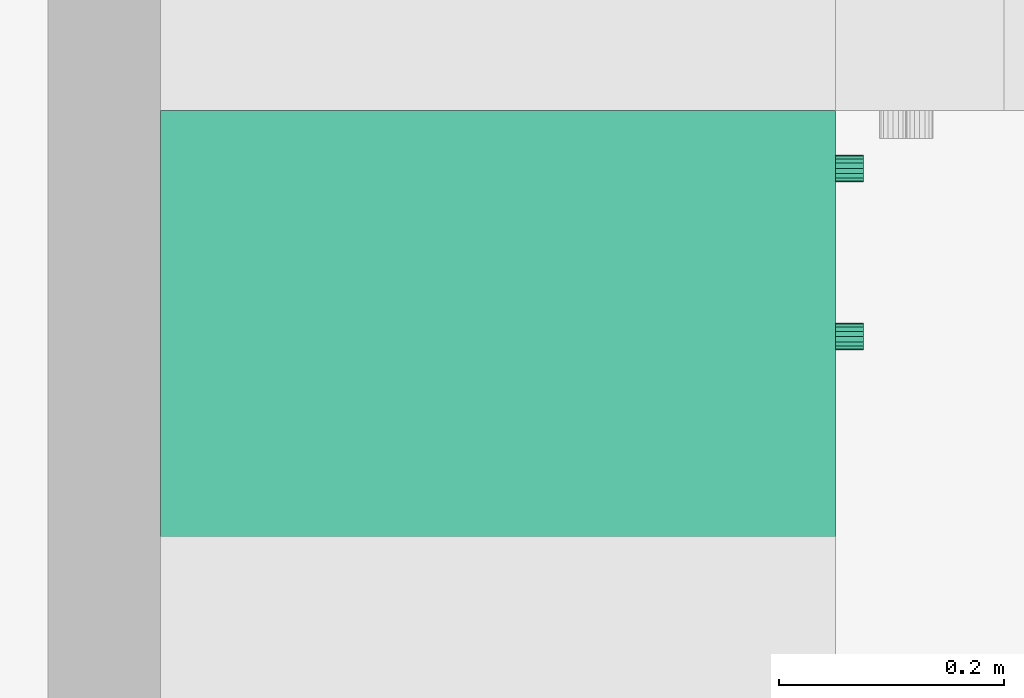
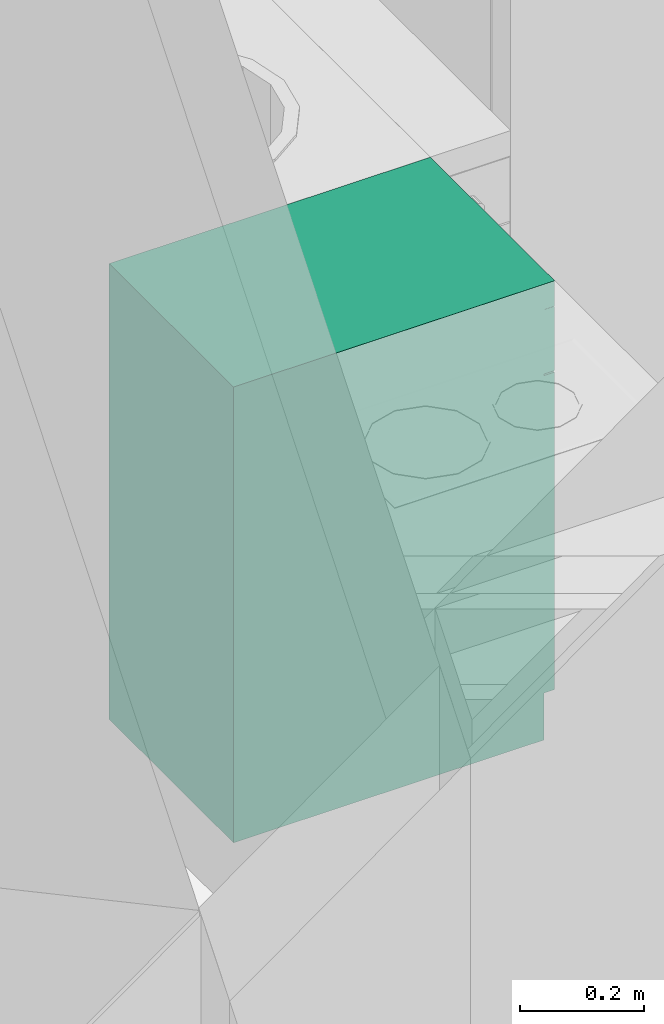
# One storey, part 68 of 172: 1 flow terminal.
"""IFC2X3 building model written with IfcOpenShell, lengths in millimetres."""

import ifcopenshell
import ifcopenshell.guid

model = None  # the IFC model being written
_history = None  # IfcOwnerHistory: only IFC2X3 demands one
_inside = {}  # id of a spatial element -> (the spatial element, [elements in it])
_under = {}  # id of a project, library or spatial element -> (it, [spatial elements below it])
_declared = {}  # id of a project -> (the project, [libraries it declares])
_typed = {}  # id of a type object -> (the type object, [elements of that type])
_made_of = {}  # id of a material, layer set ... -> (it, [elements and type objects made of it])


def new_model(schema):
    """Start an empty IFC model of exactly this schema.

    Asked for "IFC4X3", IfcOpenShell would pick the latest addendum, in which some entities
    have other attributes; the version numbers below select the first issue.
    IFC2X3 requires an IfcOwnerHistory on every rooted entity: one is made here for all.
    """
    global model, _history
    if schema == "IFC4X3":
        model = ifcopenshell.file(schema_version=(4, 3, 0, 0))
    else:
        model = ifcopenshell.file(schema=schema)
    _inside.clear()
    _under.clear()
    _declared.clear()
    _typed.clear()
    _made_of.clear()
    _history = None
    if model.schema == "IFC2X3":
        org = make("IfcOrganization", Name="unknown")
        user = make(
            "IfcPersonAndOrganization",
            ThePerson=make("IfcPerson", FamilyName="unknown"),
            TheOrganization=org,
        )
        app = make(
            "IfcApplication",
            ApplicationDeveloper=org,
            Version="unknown",
            ApplicationFullName="unknown",
            ApplicationIdentifier="unknown",
        )
        _history = make(
            "IfcOwnerHistory",
            OwningUser=user,
            OwningApplication=app,
            ChangeAction="ADDED",
            CreationDate=0,
        )
    return model


def make(cls, **values):
    """One entity of the class cls with the attributes given. An attribute that is None is left unset."""
    return model.create_entity(
        cls, **{name: value for name, value in values.items() if value is not None}
    )


def entity(cls, *values):
    """Any entity or typed value of the class cls, its attributes in the order of the schema. None: left unset."""
    e = model.create_entity(cls)
    for i, value in enumerate(values):
        if value is not None:
            e[i] = value
    return e


def rooted(cls, **values):
    """An entity with a GlobalId (a new one), such as an element, a storey or a relation."""
    return make(cls, GlobalId=ifcopenshell.guid.new(), OwnerHistory=_history, **values)


def si_unit(unit_type, name, prefix=None):
    """IfcSIUnit, for example si_unit("LENGTHUNIT", "METRE", prefix="MILLI")."""
    return make("IfcSIUnit", UnitType=unit_type, Prefix=prefix, Name=name)


def converted_unit(unit_type, name, factor, base, dimensions=None, offset=None):
    """IfcConversionBasedUnit, such as the inch: factor (a typed value) times the base unit."""
    return make(
        "IfcConversionBasedUnit"
        if offset is None
        else "IfcConversionBasedUnitWithOffset",
        ConversionOffset=offset,
        Dimensions=None
        if dimensions is None
        else entity("IfcDimensionalExponents", *dimensions),
        UnitType=unit_type,
        Name=name,
        ConversionFactor=make(
            "IfcMeasureWithUnit", ValueComponent=factor, UnitComponent=base
        ),
    )


def money_unit(currency):
    """IfcMonetaryUnit."""
    return make("IfcMonetaryUnit", Currency=currency)


def assignment(units):
    """IfcUnitAssignment: the units of a project."""
    return None if units is None else make("IfcUnitAssignment", Units=units)


def point(xyz):
    """IfcCartesianPoint."""
    return None if xyz is None else make("IfcCartesianPoint", Coordinates=xyz)


def direction(xyz):
    """IfcDirection."""
    return None if xyz is None else make("IfcDirection", DirectionRatios=xyz)


def frame(location, z_axis=None, x_axis=None):
    """IfcAxis2Placement3D, a coordinate frame: its origin and axes. An axis left out is left unset."""
    return make(
        "IfcAxis2Placement3D",
        Location=point(location),
        Axis=direction(z_axis),
        RefDirection=direction(x_axis),
    )


def origin_with_axes():
    """The frame at (0, 0, 0) with the z axis (0, 0, 1) and the x axis (1, 0, 0) written out."""
    return frame((0.0, 0.0, 0.0), z_axis=(0.0, 0.0, 1.0), x_axis=(1.0, 0.0, 0.0))


def place(relative_to, where):
    """IfcLocalPlacement: puts the frame where relative to a parent placement (None: the world)."""
    return make(
        "IfcLocalPlacement", PlacementRelTo=relative_to, RelativePlacement=where
    )


def context(
    kind, dimensions, precision=None, world=None, true_north=None, identifier=None
):
    """IfcGeometricRepresentationContext, for example the 3D "Model" context."""
    return make(
        "IfcGeometricRepresentationContext",
        ContextIdentifier=identifier,
        ContextType=kind,
        CoordinateSpaceDimension=dimensions,
        Precision=precision,
        WorldCoordinateSystem=world,
        TrueNorth=true_north,
    )


def subcontext(parent, identifier, kind, view, scale=None):
    """IfcGeometricRepresentationSubContext, for example "Body" below "Model"."""
    return make(
        "IfcGeometricRepresentationSubContext",
        ContextIdentifier=identifier,
        ContextType=kind,
        ParentContext=parent,
        TargetScale=scale,
        TargetView=view,
    )


def project(units=None, contexts=None):
    """IfcProject with its units and contexts."""
    return rooted(
        "IfcProject",
        Name="project",
        RepresentationContexts=contexts,
        UnitsInContext=assignment(units),
    )


def spatial(cls, under=None, at=None, **own):
    """A site, building, storey or space (cls), placed at a placement, below another one or the project."""
    s = rooted(cls, ObjectPlacement=at, **own)
    if under is not None:
        _under.setdefault(under.id(), (under, []))[1].append(s)
    return s


def faces_of(points, faces, orient=None, outer=None):
    """IfcFace entities. A face is a list of loops; a loop is a list of indices into points, from 0.

    orient and outer hold one flag for each loop. By default every Orientation is true, the
    first loop of a face is its IfcFaceOuterBound and the others are IfcFaceBound.
    """
    made = []
    for i, loops in enumerate(faces):
        bounds = []
        for j, loop in enumerate(loops):
            is_outer = j == 0 if outer is None else outer[i][j]
            bounds.append(
                make(
                    "IfcFaceOuterBound" if is_outer else "IfcFaceBound",
                    Bound=make("IfcPolyLoop", Polygon=[points[k] for k in loop]),
                    Orientation=True if orient is None else orient[i][j],
                )
            )
        made.append(make("IfcFace", Bounds=bounds))
    return made


def faceted_brep(points, faces, orient=None, outer=None, voids=None):
    """IfcFacetedBrep: a solid bounded by flat faces; with voids (closed shells), ...WithVoids."""
    shared = [point(p) for p in points]
    hull = make("IfcClosedShell", CfsFaces=faces_of(shared, faces, orient, outer))
    if voids is None:
        return make("IfcFacetedBrep", Outer=hull)
    return make(
        "IfcFacetedBrepWithVoids",
        Outer=hull,
        Voids=[
            make(cls, CfsFaces=faces_of(shared, fs, o, b)) for cls, fs, o, b in voids
        ],
    )


def shape(context_of_items, identifier, shape_type, items):
    """IfcShapeRepresentation: the items that make up one representation, for example the "Body"."""
    return make(
        "IfcShapeRepresentation",
        ContextOfItems=context_of_items,
        RepresentationIdentifier=identifier,
        RepresentationType=shape_type,
        Items=items,
    )


def material(Name=None, Category=None):
    """IfcMaterial."""
    return make("IfcMaterial", Name=Name, Category=Category)


def material_list(materials):
    """IfcMaterialList."""
    return make("IfcMaterialList", Materials=materials)


def made_of(thing, what):
    """Note that an element or type object is made of a material, layer set ...; save() writes the relation."""
    if what is not None:
        _made_of.setdefault(what.id(), (what, []))[1].append(thing)
    return thing


def type_object(cls, material=None, **own):
    """A type object (cls), such as IfcWallType, which elements share."""
    return made_of(rooted(cls, **own), material)


def element(
    cls,
    number,
    at=None,
    inside=None,
    cuts=None,
    type_object=None,
    material=None,
    context=None,
    identifier="Body",
    shape_type=None,
    held_by="IfcProductDefinitionShape",
    body=None,
    shapes=None,
    **own,
):
    """One element of the class cls, such as IfcWall. Its Tag is "e" and its number.

    at: its placement. inside: the storey or other place that contains it. cuts: it is an
    opening in that element (IfcRelVoidsElement). A single representation is given by context,
    identifier, shape_type and body (its items); several are given by shapes. held_by: the class
    of the entity that holds the representations. save() writes the other relations.
    """
    e = rooted(cls, Tag="e%d" % number, ObjectPlacement=at, **own)
    if body is not None:
        shapes = [shape(context, identifier, shape_type, body)]
    if shapes is not None:
        e.Representation = make(held_by, Representations=shapes)
    if inside is not None:
        _inside.setdefault(inside.id(), (inside, []))[1].append(e)
    if cuts is not None:
        rooted(
            "IfcRelVoidsElement", RelatingBuildingElement=cuts, RelatedOpeningElement=e
        )
    if type_object is not None:
        _typed.setdefault(type_object.id(), (type_object, []))[1].append(e)
    return made_of(e, material)


def aggregate(whole, parts):
    """IfcRelAggregates: a whole, such as a stair, and the parts it consists of."""
    return rooted("IfcRelAggregates", RelatingObject=whole, RelatedObjects=parts)


def save(model, path):
    """Write the relations noted so far, then the file.

    IfcRelAggregates (storeys below a building ...), IfcRelContainedInSpatialStructure (elements
    in a storey), IfcRelDefinesByType, IfcRelAssociatesMaterial and IfcRelDeclares: one each for
    every whole, place, type object, material and project.
    """
    for whole, parts in _under.values():
        aggregate(whole, parts)
    for where, things in _inside.values():
        rooted(
            "IfcRelContainedInSpatialStructure",
            RelatedElements=things,
            RelatingStructure=where,
        )
    for kind, things in _typed.values():
        rooted("IfcRelDefinesByType", RelatedObjects=things, RelatingType=kind)
    for what, things in _made_of.values():
        rooted("IfcRelAssociatesMaterial", RelatedObjects=things, RelatingMaterial=what)
    for by, libraries in _declared.values():
        rooted("IfcRelDeclares", RelatingContext=by, RelatedDefinitions=libraries)
    model.write(path)


model = new_model("IFC2X3")

# Units and contexts
model_context = context("Model", 3, precision=1e-05, world=origin_with_axes(), true_north=direction((0.0, 1.0)))
body_context = subcontext(model_context, "Body", "Model", "MODEL_VIEW")
ifc_project = project(units=[si_unit("LENGTHUNIT", "METRE", prefix="MILLI"), si_unit("AREAUNIT", "SQUARE_METRE"), si_unit("VOLUMEUNIT", "CUBIC_METRE"), converted_unit("PLANEANGLEUNIT", "DEGREE", entity("IfcPlaneAngleMeasure", 0.0174532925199), si_unit("PLANEANGLEUNIT", "RADIAN"), dimensions=[0, 0, 0, 0, 0, 0, 0]), si_unit("SOLIDANGLEUNIT", "STERADIAN"), money_unit("USD"), converted_unit("TIMEUNIT", "Year", entity("IfcTimeMeasure", 31556926.0), si_unit("TIMEUNIT", "SECOND"), dimensions=[0, 0, 0, 0, 0, 0, 0]), si_unit("MASSUNIT", "GRAM"), si_unit("THERMODYNAMICTEMPERATUREUNIT", "DEGREE_CELSIUS"), si_unit("LUMINOUSINTENSITYUNIT", "LUMEN")], contexts=[model_context])

# Site, building, storey
site_placement = place(None, origin_with_axes())
site = spatial("IfcSite", under=ifc_project, at=site_placement, Name="Site", CompositionType="ELEMENT")
building_placement = place(site_placement, origin_with_axes())
building = spatial("IfcBuilding", under=site, at=building_placement, Name="Building", CompositionType="ELEMENT")
storey_placement = place(building_placement, frame((0.0, 0.0, 3200.0), z_axis=(0.0, 0.0, 1.0), x_axis=(1.0, 0.0, 0.0)))
storey = spatial("IfcBuildingStorey", under=building, at=storey_placement, Name="3KORRUS", CompositionType="ELEMENT", Elevation=3200.0)

# Flow terminal
ifc_material = material(Name="Background")
ifc_material_list = material_list([ifc_material])
sanitary_terminal_type = type_object("IfcSanitaryTerminalType", Name="Cabinet Base Single Door 19", PredefinedType="SINK")
flow_terminal_placement = place(storey_placement, frame((-4940.30226501, -10369.6268342, 0.0), z_axis=(0.0, 0.0, 1.0), x_axis=(0.0, 1.0, 0.0)))
element("IfcFlowTerminal", 1, at=flow_terminal_placement, inside=storey, type_object=sanitary_terminal_type, material=ifc_material_list, Name="FU - 007", context=body_context, shape_type="Brep", body=[
    faceted_brep([(20.0, 20.0, 710.0), (382.248, 20.0, 710.0), (382.248, 20.0, 730.0), (20.0, 20.0, 730.0), (20.0, 580.0, 710.0), (382.248, 580.0, 710.0), (382.248, 580.0, 730.0), (20.0, 580.0, 730.0)], [[[0, 1, 2, 3]], [[0, 4, 5, 1]], [[1, 5, 6, 2]], [[3, 2, 6, 7]], [[4, 0, 3, 7]], [[5, 4, 7, 6]]]),
    faceted_brep([(0.0, 20.0, 0.0), (402.248, 20.0, 0.0), (402.248, 20.0, 90.0), (0.0, 20.0, 90.0), (0.0, 600.0, 0.0), (402.248, 600.0, 0.0), (402.248, 600.0, 90.0), (0.0, 600.0, 90.0)], [[[0, 1, 2, 3]], [[0, 4, 5, 1]], [[1, 5, 6, 2]], [[3, 2, 6, 7]], [[4, 0, 3, 7]], [[5, 4, 7, 6]]]),
    faceted_brep([(0.0, 20.0, 830.0), (20.0, 20.0, 830.0), (20.0, 20.0, 850.0), (0.0, 20.0, 850.0), (0.0, 600.0, 830.0), (20.0, 600.0, 830.0), (382.248, 600.0, 830.0), (402.248, 600.0, 830.0), (402.248, 20.0, 830.0), (382.248, 20.0, 830.0), (382.248, 20.0, 850.0), (402.248, 20.0, 850.0), (402.248, 600.0, 850.0), (382.248, 600.0, 850.0), (20.0, 600.0, 850.0), (0.0, 600.0, 850.0)], [[[0, 1, 2, 3]], [[0, 4, 5, 6, 7, 8, 9, 1]], [[1, 9, 10, 2]], [[3, 2, 10, 11, 12, 13, 14, 15]], [[4, 0, 3, 15]], [[5, 4, 15, 14]], [[6, 5, 14, 13]], [[7, 6, 13, 12]], [[8, 7, 12, 11]], [[9, 8, 11, 10]]]),
    faceted_brep([(0.0, 20.0, 90.0), (20.0, 20.0, 90.0), (20.0, 20.0, 110.0), (0.0, 20.0, 110.0), (0.0, 600.0, 90.0), (20.0, 600.0, 90.0), (382.248, 600.0, 90.0), (402.248, 600.0, 90.0), (402.248, 20.0, 90.0), (382.248, 20.0, 90.0), (382.248, 20.0, 110.0), (402.248, 20.0, 110.0), (402.248, 600.0, 110.0), (382.248, 600.0, 110.0), (20.0, 600.0, 110.0), (0.0, 600.0, 110.0)], [[[0, 1, 2, 3]], [[0, 4, 5, 6, 7, 8, 9, 1]], [[1, 9, 10, 2]], [[3, 2, 10, 11, 12, 13, 14, 15]], [[4, 0, 3, 15]], [[5, 4, 15, 14]], [[6, 5, 14, 13]], [[7, 6, 13, 12]], [[8, 7, 12, 11]], [[9, 8, 11, 10]]]),
    faceted_brep([(0.0, 20.0, 110.0), (20.0, 20.0, 110.0), (20.0, 20.0, 830.0), (0.0, 20.0, 830.0), (0.0, 600.0, 110.0), (402.248, 600.0, 110.0), (402.248, 20.0, 110.0), (382.248, 20.0, 110.0), (382.248, 580.0, 110.0), (20.0, 580.0, 110.0), (20.0, 580.0, 830.0), (382.248, 580.0, 830.0), (382.248, 20.0, 830.0), (402.248, 20.0, 830.0), (402.248, 600.0, 830.0), (0.0, 600.0, 830.0)], [[[0, 1, 2, 3]], [[0, 4, 5, 6, 7, 8, 9, 1]], [[1, 9, 10, 2]], [[3, 2, 10, 11, 12, 13, 14, 15]], [[4, 0, 3, 15]], [[5, 4, 15, 14]], [[6, 5, 14, 13]], [[7, 6, 13, 12]], [[8, 7, 12, 11]], [[9, 8, 11, 10]]]),
    faceted_brep([(382.248, 20.0, 385.0), (382.248, 580.0, 385.0), (382.248, 580.0, 405.0), (382.248, 20.0, 405.0), (20.0, 20.0, 385.0), (20.0, 580.0, 385.0), (20.0, 580.0, 405.0), (20.0, 20.0, 405.0)], [[[0, 1, 2, 3]], [[0, 4, 5, 1]], [[1, 5, 6, 2]], [[3, 2, 6, 7]], [[4, 0, 3, 7]], [[5, 4, 7, 6]]]),
    faceted_brep([(0.0, 0.0, 850.0), (402.248, 0.0, 850.0), (402.248, 0.0, 900.0), (0.0, 0.0, 900.0), (0.0, 600.0, 850.0), (402.248, 600.0, 850.0), (402.248, 600.0, 900.0), (0.0, 600.0, 900.0)], [[[0, 1, 2, 3]], [[0, 4, 5, 1]], [[1, 5, 6, 2]], [[3, 2, 6, 7]], [[4, 0, 3, 7]], [[5, 4, 7, 6]]]),
    faceted_brep([(1.5, 20.0, 721.5), (400.748, 20.0, 721.5), (400.748, 0.0, 721.5), (1.5, 0.0, 721.5), (1.5, 20.0, 848.5), (400.748, 20.0, 848.5), (400.748, 0.0, 848.5), (1.5, 0.0, 848.5)], [[[0, 1, 2, 3]], [[0, 4, 5, 1]], [[1, 5, 6, 2]], [[3, 2, 6, 7]], [[4, 0, 3, 7]], [[5, 4, 7, 6]]]),
    faceted_brep([(196.532, 0.0, 773.913), (192.639, 0.0, 776.515), (190.038, 0.0, 780.408), (189.124, 0.0, 785.0), (190.038, 0.0, 789.592), (192.639, 0.0, 793.485), (196.532, 0.0, 796.087), (201.124, 0.0, 797.0), (205.716, 0.0, 796.087), (209.609, 0.0, 793.485), (212.211, 0.0, 789.592), (213.124, 0.0, 785.0), (212.211, 0.0, 780.408), (209.609, 0.0, 776.515), (205.716, 0.0, 773.913), (201.124, 0.0, 773.0), (196.532, -25.0, 773.913), (192.639, -25.0, 776.515), (190.038, -25.0, 780.408), (189.124, -25.0, 785.0), (190.038, -25.0, 789.592), (192.639, -25.0, 793.485), (196.532, -25.0, 796.087), (201.124, -25.0, 797.0), (205.716, -25.0, 796.087), (209.609, -25.0, 793.485), (212.211, -25.0, 789.592), (213.124, -25.0, 785.0), (212.211, -25.0, 780.408), (209.609, -25.0, 776.515), (205.716, -25.0, 773.913), (201.124, -25.0, 773.0)], [[[0, 1, 2, 3, 4, 5, 6, 7, 8, 9, 10, 11, 12, 13, 14, 15]], [[1, 0, 16, 17]], [[2, 1, 17, 18]], [[3, 2, 18, 19]], [[4, 3, 19, 20]], [[5, 4, 20, 21]], [[6, 5, 21, 22]], [[7, 6, 22, 23]], [[8, 7, 23, 24]], [[9, 8, 24, 25]], [[10, 9, 25, 26]], [[11, 10, 26, 27]], [[12, 11, 27, 28]], [[13, 12, 28, 29]], [[14, 13, 29, 30]], [[15, 14, 30, 31]], [[0, 15, 31, 16]], [[16, 31, 30, 29, 28, 27, 26, 25, 24, 23, 22, 21, 20, 19, 18, 17]]]),
    faceted_brep([(1.5, 20.0, 91.5), (400.748, 20.0, 91.5), (400.748, 0.0, 91.5), (1.5, 0.0, 91.5), (1.5, 20.0, 718.5), (400.748, 20.0, 718.5), (400.748, 0.0, 718.5), (1.5, 0.0, 718.5)], [[[0, 1, 2, 3]], [[0, 4, 5, 1]], [[1, 5, 6, 2]], [[3, 2, 6, 7]], [[4, 0, 3, 7]], [[5, 4, 7, 6]]]),
    faceted_brep([(361.835, 0.0, 636.908), (359.234, 0.0, 633.015), (355.341, 0.0, 630.413), (350.748, 0.0, 629.5), (346.156, 0.0, 630.413), (342.263, 0.0, 633.015), (339.662, 0.0, 636.908), (338.748, 0.0, 641.5), (339.662, 0.0, 646.092), (342.263, 0.0, 649.985), (346.156, 0.0, 652.587), (350.748, 0.0, 653.5), (355.341, 0.0, 652.587), (359.234, 0.0, 649.985), (361.835, 0.0, 646.092), (362.748, 0.0, 641.5), (361.835, -25.0, 636.908), (359.234, -25.0, 633.015), (355.341, -25.0, 630.413), (350.748, -25.0, 629.5), (346.156, -25.0, 630.413), (342.263, -25.0, 633.015), (339.662, -25.0, 636.908), (338.748, -25.0, 641.5), (339.662, -25.0, 646.092), (342.263, -25.0, 649.985), (346.156, -25.0, 652.587), (350.748, -25.0, 653.5), (355.341, -25.0, 652.587), (359.234, -25.0, 649.985), (361.835, -25.0, 646.092), (362.748, -25.0, 641.5)], [[[0, 1, 2, 3, 4, 5, 6, 7, 8, 9, 10, 11, 12, 13, 14, 15]], [[1, 0, 16, 17]], [[2, 1, 17, 18]], [[3, 2, 18, 19]], [[4, 3, 19, 20]], [[5, 4, 20, 21]], [[6, 5, 21, 22]], [[7, 6, 22, 23]], [[8, 7, 23, 24]], [[9, 8, 24, 25]], [[10, 9, 25, 26]], [[11, 10, 26, 27]], [[12, 11, 27, 28]], [[13, 12, 28, 29]], [[14, 13, 29, 30]], [[15, 14, 30, 31]], [[0, 15, 31, 16]], [[16, 31, 30, 29, 28, 27, 26, 25, 24, 23, 22, 21, 20, 19, 18, 17]]]),
])

save(model, "model.ifc")
